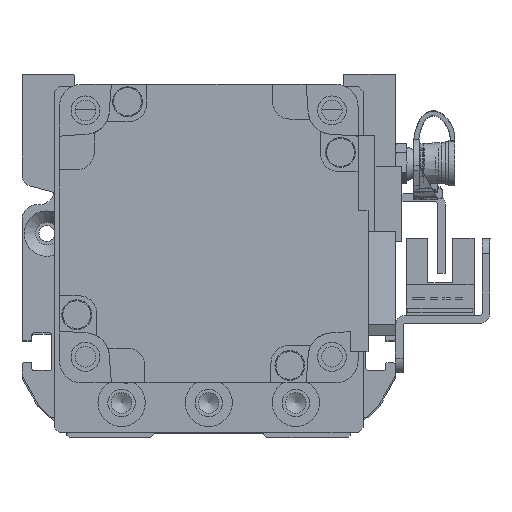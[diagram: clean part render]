
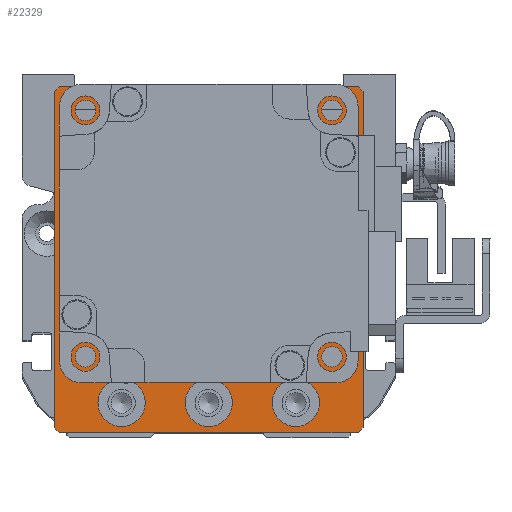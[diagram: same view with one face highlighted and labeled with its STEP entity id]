
A CAD part, left-side view. The second image highlights one B-rep face of the part: STEP entity #22329.
In plain terms, the highlighted planar face has unit normal (-1, 0, 0) as drawn and (0, 0, 1) by its records, which use the part's own axes.
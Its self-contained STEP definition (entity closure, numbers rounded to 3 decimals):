
#825=FACE_BOUND('',#4295,.T.);
#826=FACE_BOUND('',#4296,.T.);
#827=FACE_BOUND('',#4297,.T.);
#828=FACE_BOUND('',#4298,.T.);
#829=FACE_BOUND('',#4299,.T.);
#830=FACE_BOUND('',#4300,.T.);
#831=FACE_BOUND('',#4301,.T.);
#832=FACE_BOUND('',#4302,.T.);
#1357=PLANE('',#24833);
#2865=FACE_OUTER_BOUND('',#4294,.T.);
#4294=EDGE_LOOP('',(#19539,#19540,#19541,#19542,#19543,#19544,#19545,#19546));
#4295=EDGE_LOOP('',(#19547));
#4296=EDGE_LOOP('',(#19548));
#4297=EDGE_LOOP('',(#19549));
#4298=EDGE_LOOP('',(#19550));
#4299=EDGE_LOOP('',(#19551));
#4300=EDGE_LOOP('',(#19552));
#4301=EDGE_LOOP('',(#19553));
#4302=EDGE_LOOP('',(#19554));
#6168=LINE('',#37423,#8080);
#6171=LINE('',#37428,#8083);
#6173=LINE('',#37432,#8085);
#6175=LINE('',#37436,#8087);
#6177=LINE('',#37441,#8089);
#6179=LINE('',#37444,#8091);
#6180=LINE('',#37446,#8092);
#6181=LINE('',#37447,#8093);
#8080=VECTOR('',#30305,10.);
#8083=VECTOR('',#30310,10.);
#8085=VECTOR('',#30314,10.);
#8087=VECTOR('',#30318,10.);
#8089=VECTOR('',#30322,10.);
#8091=VECTOR('',#30326,10.);
#8092=VECTOR('',#30327,10.);
#8093=VECTOR('',#30328,10.);
#9390=CIRCLE('',#24834,25.);
#9391=CIRCLE('',#24835,2.067);
#9392=CIRCLE('',#24836,2.067);
#9393=CIRCLE('',#24837,2.067);
#9394=CIRCLE('',#24838,2.067);
#9395=CIRCLE('',#24839,4.75);
#9396=CIRCLE('',#24840,4.75);
#9397=CIRCLE('',#24841,4.75);
#11222=VERTEX_POINT('',#37420);
#11223=VERTEX_POINT('',#37422);
#11224=VERTEX_POINT('',#37426);
#11225=VERTEX_POINT('',#37430);
#11226=VERTEX_POINT('',#37434);
#11227=VERTEX_POINT('',#37438);
#11228=VERTEX_POINT('',#37440);
#11229=VERTEX_POINT('',#37445);
#11230=VERTEX_POINT('',#37448);
#11231=VERTEX_POINT('',#37450);
#11232=VERTEX_POINT('',#37452);
#11233=VERTEX_POINT('',#37454);
#11234=VERTEX_POINT('',#37456);
#11235=VERTEX_POINT('',#37458);
#11236=VERTEX_POINT('',#37460);
#11237=VERTEX_POINT('',#37462);
#14090=EDGE_CURVE('',#11222,#11223,#6168,.T.);
#14093=EDGE_CURVE('',#11222,#11224,#6171,.T.);
#14095=EDGE_CURVE('',#11225,#11224,#6173,.T.);
#14097=EDGE_CURVE('',#11225,#11226,#6175,.T.);
#14099=EDGE_CURVE('',#11227,#11228,#6177,.T.);
#14101=EDGE_CURVE('',#11227,#11223,#6179,.T.);
#14102=EDGE_CURVE('',#11229,#11226,#6180,.T.);
#14103=EDGE_CURVE('',#11229,#11228,#6181,.T.);
#14104=EDGE_CURVE('',#11230,#11230,#9390,.T.);
#14105=EDGE_CURVE('',#11231,#11231,#9391,.T.);
#14106=EDGE_CURVE('',#11232,#11232,#9392,.T.);
#14107=EDGE_CURVE('',#11233,#11233,#9393,.T.);
#14108=EDGE_CURVE('',#11234,#11234,#9394,.T.);
#14109=EDGE_CURVE('',#11235,#11235,#9395,.T.);
#14110=EDGE_CURVE('',#11236,#11236,#9396,.T.);
#14111=EDGE_CURVE('',#11237,#11237,#9397,.T.);
#19539=ORIENTED_EDGE('',*,*,#14099,.F.);
#19540=ORIENTED_EDGE('',*,*,#14101,.T.);
#19541=ORIENTED_EDGE('',*,*,#14090,.F.);
#19542=ORIENTED_EDGE('',*,*,#14093,.T.);
#19543=ORIENTED_EDGE('',*,*,#14095,.F.);
#19544=ORIENTED_EDGE('',*,*,#14097,.T.);
#19545=ORIENTED_EDGE('',*,*,#14102,.F.);
#19546=ORIENTED_EDGE('',*,*,#14103,.T.);
#19547=ORIENTED_EDGE('',*,*,#14104,.T.);
#19548=ORIENTED_EDGE('',*,*,#14105,.T.);
#19549=ORIENTED_EDGE('',*,*,#14106,.T.);
#19550=ORIENTED_EDGE('',*,*,#14107,.T.);
#19551=ORIENTED_EDGE('',*,*,#14108,.T.);
#19552=ORIENTED_EDGE('',*,*,#14109,.T.);
#19553=ORIENTED_EDGE('',*,*,#14110,.T.);
#19554=ORIENTED_EDGE('',*,*,#14111,.T.);
#22329=ADVANCED_FACE('',(#2865,#825,#826,#827,#828,#829,#830,#831,#832),
#1357,.T.);
#24833=AXIS2_PLACEMENT_3D('',#37443,#30324,#30325);
#24834=AXIS2_PLACEMENT_3D('',#37449,#30329,#30330);
#24835=AXIS2_PLACEMENT_3D('',#37451,#30331,#30332);
#24836=AXIS2_PLACEMENT_3D('',#37453,#30333,#30334);
#24837=AXIS2_PLACEMENT_3D('',#37455,#30335,#30336);
#24838=AXIS2_PLACEMENT_3D('',#37457,#30337,#30338);
#24839=AXIS2_PLACEMENT_3D('',#37459,#30339,#30340);
#24840=AXIS2_PLACEMENT_3D('',#37461,#30341,#30342);
#24841=AXIS2_PLACEMENT_3D('',#37463,#30343,#30344);
#30305=DIRECTION('',(-0.707,-0.707,0.));
#30310=DIRECTION('',(0.,1.,0.));
#30314=DIRECTION('',(0.707,-0.707,0.));
#30318=DIRECTION('',(-1.,0.,0.));
#30322=DIRECTION('',(-0.707,0.707,0.));
#30324=DIRECTION('center_axis',(0.,0.,1.));
#30325=DIRECTION('ref_axis',(1.,0.,0.));
#30326=DIRECTION('',(1.,0.,0.));
#30327=DIRECTION('',(0.707,0.707,0.));
#30328=DIRECTION('',(0.,-1.,0.));
#30329=DIRECTION('center_axis',(0.,0.,-1.));
#30330=DIRECTION('ref_axis',(1.,0.,0.));
#30331=DIRECTION('center_axis',(0.,0.,-1.));
#30332=DIRECTION('ref_axis',(1.,0.,0.));
#30333=DIRECTION('center_axis',(0.,0.,-1.));
#30334=DIRECTION('ref_axis',(1.,0.,0.));
#30335=DIRECTION('center_axis',(0.,0.,-1.));
#30336=DIRECTION('ref_axis',(1.,0.,0.));
#30337=DIRECTION('center_axis',(0.,0.,-1.));
#30338=DIRECTION('ref_axis',(1.,0.,0.));
#30339=DIRECTION('center_axis',(0.,0.,-1.));
#30340=DIRECTION('ref_axis',(1.,0.,0.));
#30341=DIRECTION('center_axis',(0.,0.,-1.));
#30342=DIRECTION('ref_axis',(1.,0.,0.));
#30343=DIRECTION('center_axis',(0.,0.,-1.));
#30344=DIRECTION('ref_axis',(1.,0.,0.));
#37420=CARTESIAN_POINT('',(31.,-33.75,59.));
#37422=CARTESIAN_POINT('',(30.,-34.75,59.));
#37423=CARTESIAN_POINT('',(31.438,-33.313,59.));
#37426=CARTESIAN_POINT('',(31.,33.75,59.));
#37428=CARTESIAN_POINT('',(31.,-34.75,59.));
#37430=CARTESIAN_POINT('',(30.,34.75,59.));
#37432=CARTESIAN_POINT('',(31.438,33.313,59.));
#37434=CARTESIAN_POINT('',(-30.,34.75,59.));
#37436=CARTESIAN_POINT('',(31.,34.75,59.));
#37438=CARTESIAN_POINT('',(-30.,-34.75,59.));
#37440=CARTESIAN_POINT('',(-31.,-33.75,59.));
#37441=CARTESIAN_POINT('',(-31.438,-33.313,59.));
#37443=CARTESIAN_POINT('Origin',(0.,0.,
59.));
#37444=CARTESIAN_POINT('',(-31.,-34.75,59.));
#37445=CARTESIAN_POINT('',(-31.,33.75,59.));
#37446=CARTESIAN_POINT('',(-31.438,33.313,59.));
#37447=CARTESIAN_POINT('',(-31.,34.75,59.));
#37448=CARTESIAN_POINT('',(-25.,5.25,59.));
#37449=CARTESIAN_POINT('Origin',(0.,5.25,59.));
#37450=CARTESIAN_POINT('',(22.682,-19.499,59.));
#37451=CARTESIAN_POINT('Origin',(24.749,-19.499,59.));
#37452=CARTESIAN_POINT('',(22.682,29.999,59.));
#37453=CARTESIAN_POINT('Origin',(24.749,29.999,59.));
#37454=CARTESIAN_POINT('',(-26.816,29.999,59.));
#37455=CARTESIAN_POINT('Origin',(-24.749,29.999,59.));
#37456=CARTESIAN_POINT('',(-26.816,-19.499,59.));
#37457=CARTESIAN_POINT('Origin',(-24.749,-19.499,59.));
#37458=CARTESIAN_POINT('',(12.75,-28.75,59.));
#37459=CARTESIAN_POINT('Origin',(17.5,-28.75,59.));
#37460=CARTESIAN_POINT('',(-4.75,-28.75,59.));
#37461=CARTESIAN_POINT('Origin',(0.,-28.75,59.));
#37462=CARTESIAN_POINT('',(-22.25,-28.75,59.));
#37463=CARTESIAN_POINT('Origin',(-17.5,-28.75,59.));
